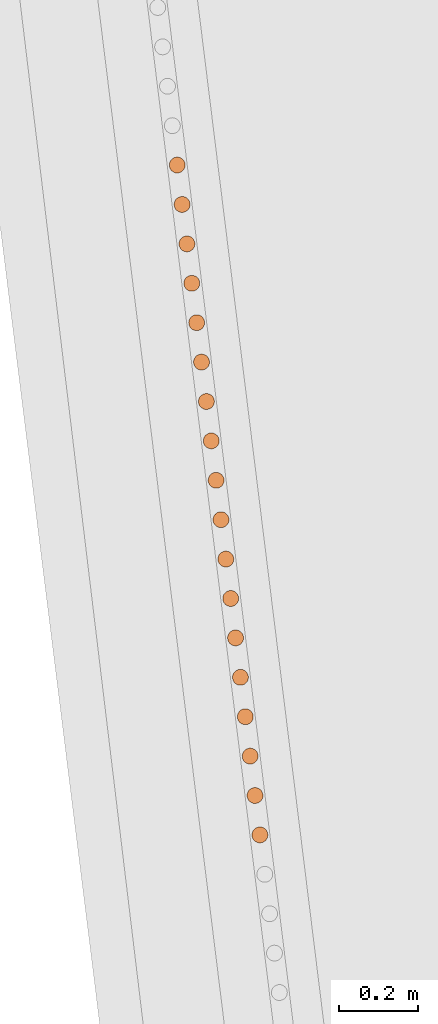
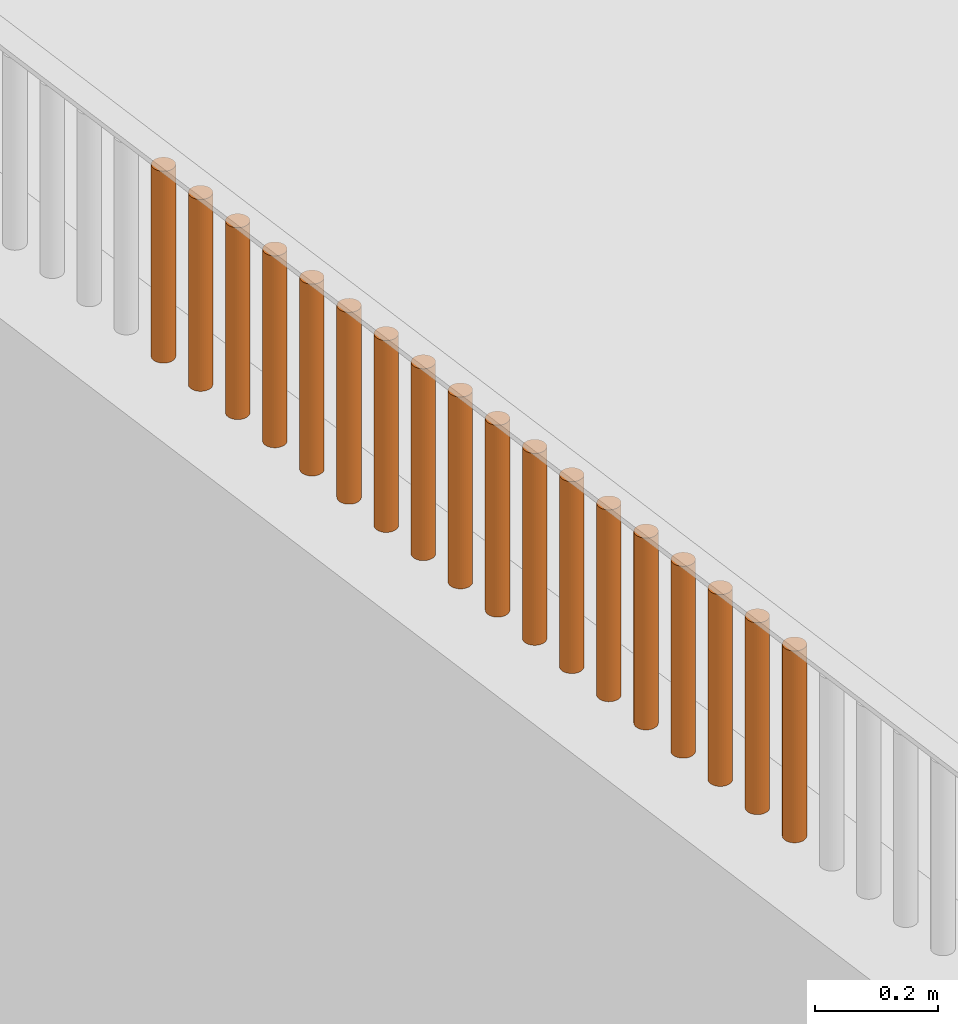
# One storey, part 123 of 1809: 18 proxies, 1 element without a shape of its own.
"""IFC2X3 building model written with IfcOpenShell, lengths in millimetres."""

from ifc_helpers import new_model, entity, si_unit, converted_unit, derived_unit, money_unit, direction, frame, origin_with_axes, place, context, subcontext, project, spatial, faceted_brep, source, transform, mapped, material, type_object, element, aggregate, save


model = new_model("IFC2X3")

# Units and contexts
model_context = context("Model", 3, precision=0.01, world=origin_with_axes(), true_north=direction((0.0, 1.0)))
body_context = subcontext(model_context, "Body", "Model", "MODEL_VIEW")
ifc_project = project(units=[si_unit("LENGTHUNIT", "METRE", prefix="MILLI"), si_unit("AREAUNIT", "SQUARE_METRE"), si_unit("VOLUMEUNIT", "CUBIC_METRE"), converted_unit("PLANEANGLEUNIT", "DEGREE", entity("IfcPlaneAngleMeasure", 0.0174532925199), si_unit("PLANEANGLEUNIT", "RADIAN"), dimensions=[0, 0, 0, 0, 0, 0, 0]), si_unit("SOLIDANGLEUNIT", "STERADIAN"), money_unit("EUR"), converted_unit("TIMEUNIT", "Year", entity("IfcTimeMeasure", 31556926.0), si_unit("TIMEUNIT", "SECOND"), dimensions=[0, 0, 1, 0, 0, 0, 0]), si_unit("MASSUNIT", "GRAM", prefix="KILO"), si_unit("THERMODYNAMICTEMPERATUREUNIT", "DEGREE_CELSIUS"), si_unit("LUMINOUSINTENSITYUNIT", "LUMEN"), si_unit("ENERGYUNIT", "JOULE", prefix="MEGA"), derived_unit("THERMALCONDUCTANCEUNIT", [(si_unit("POWERUNIT", "WATT"), 1), (si_unit("LENGTHUNIT", "METRE"), -1), (si_unit("THERMODYNAMICTEMPERATUREUNIT", "KELVIN"), -1)]), derived_unit("SPECIFICHEATCAPACITYUNIT", [(si_unit("ENERGYUNIT", "JOULE"), 1), (si_unit("MASSUNIT", "GRAM", prefix="KILO"), -1), (si_unit("THERMODYNAMICTEMPERATUREUNIT", "KELVIN"), -1)]), derived_unit("MASSDENSITYUNIT", [(si_unit("MASSUNIT", "GRAM", prefix="KILO"), 1), (si_unit("VOLUMEUNIT", "CUBIC_METRE"), -1)])], contexts=[model_context])

# Site, building, storey
site_placement = place(None, origin_with_axes())
site = spatial("IfcSite", under=ifc_project, at=site_placement, Name="Politse- ja Piirivalveameti ning Päästeameti ühishoone", CompositionType="ELEMENT")
building_placement = place(site_placement, origin_with_axes())
building = spatial("IfcBuilding", under=site, at=building_placement, Name="Politse- ja Piirivalveameti ning Päästeameti ühishoone", CompositionType="ELEMENT")
storey_placement = place(building_placement, origin_with_axes())
storey = spatial("IfcBuildingStorey", under=building, at=storey_placement, Name="Esimene korrus", CompositionType="ELEMENT", Elevation=0.0)

# Proxies
building_element_proxy_type_1 = type_object("IfcBuildingElementProxyType", Name="Railing Type", PredefinedType="NOTDEFINED")
proxy_1_placement = place(storey_placement, frame((-18956.5522504, -53688.4757966, 2100.0), z_axis=(0.0, 0.0, 1.0), x_axis=(1.0, 0.0, 0.0)))
proxy_1 = element("IfcBuildingElementProxy", 1, at=proxy_1_placement, inside=storey, type_object=building_element_proxy_type_1, Name="PIIRDEAED")
ifc_material = material(Name="ET-06_Teras - Konstruktsioon")
building_element_proxy_type_2 = type_object("IfcBuildingElementProxyType", Name="IfcBuildingElementProxy", PredefinedType="NOTDEFINED")
shared_shape_1 = source(origin_with_axes(), body_context, "Body", "Brep", [
    faceted_brep([(0.0, -20.0, 0.0), (3.47296355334, -19.6961550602, 0.0), (3.47296355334, -19.6961550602, 380.000012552), (0.0, -20.0, 380.000012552), (-3.47296355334, -19.6961550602, 0.0), (-6.84040286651, -18.7938524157, 0.0), (-10.0, -17.3205080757, 0.0), (-12.8557521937, -15.3208888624, 0.0), (-15.3208888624, -12.8557521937, 0.0), (-17.3205080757, -10.0, 0.0), (-18.7938524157, -6.84040286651, 0.0), (-19.6961550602, -3.47296355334, 0.0), (-20.0, 0.0, 0.0), (-19.6961550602, 3.47296355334, 0.0), (-18.7938524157, 6.84040286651, 0.0), (-17.3205080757, 10.0, 0.0), (-15.3208888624, 12.8557521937, 0.0), (-12.8557521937, 15.3208888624, 0.0), (-10.0, 17.3205080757, 0.0), (-6.84040286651, 18.7938524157, 0.0), (-3.47296355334, 19.6961550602, 0.0), (0.0, 20.0, 0.0), (3.47296355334, 19.6961550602, 0.0), (6.84040286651, 18.7938524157, 0.0), (10.0, 17.3205080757, 0.0), (12.8557521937, 15.3208888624, 0.0), (15.3208888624, 12.8557521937, 0.0), (17.3205080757, 10.0, 0.0), (18.7938524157, 6.84040286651, 0.0), (19.6961550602, 3.47296355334, 0.0), (20.0, 0.0, 0.0), (19.6961550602, -3.47296355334, 0.0), (18.7938524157, -6.84040286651, 0.0), (17.3205080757, -10.0, 0.0), (15.3208888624, -12.8557521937, 0.0), (12.8557521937, -15.3208888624, 0.0), (10.0, -17.3205080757, 0.0), (6.84040286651, -18.7938524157, 0.0), (6.84040286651, -18.7938524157, 380.000012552), (10.0, -17.3205080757, 380.000012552), (12.8557521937, -15.3208888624, 380.000012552), (15.3208888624, -12.8557521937, 380.000012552), (17.3205080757, -10.0, 380.000012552), (18.7938524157, -6.84040286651, 380.000012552), (19.6961550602, -3.47296355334, 380.000012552), (20.0, 0.0, 380.000012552), (19.6961550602, 3.47296355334, 380.000012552), (18.7938524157, 6.84040286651, 380.000012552), (17.3205080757, 10.0, 380.000012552), (15.3208888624, 12.8557521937, 380.000012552), (12.8557521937, 15.3208888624, 380.000012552), (10.0, 17.3205080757, 380.000012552), (6.84040286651, 18.7938524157, 380.000012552), (3.47296355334, 19.6961550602, 380.000012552), (0.0, 20.0, 380.000012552), (-3.47296355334, 19.6961550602, 380.000012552), (-6.84040286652, 18.7938524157, 380.000012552), (-10.0, 17.3205080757, 380.000012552), (-12.8557521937, 15.3208888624, 380.000012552), (-15.3208888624, 12.8557521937, 380.000012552), (-17.3205080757, 10.0, 380.000012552), (-18.7938524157, 6.84040286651, 380.000012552), (-19.6961550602, 3.47296355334, 380.000012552), (-20.0, 0.0, 380.000012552), (-19.6961550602, -3.47296355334, 380.000012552), (-18.7938524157, -6.84040286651, 380.000012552), (-17.3205080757, -10.0, 380.000012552), (-15.3208888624, -12.8557521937, 380.000012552), (-12.8557521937, -15.3208888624, 380.000012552), (-10.0, -17.3205080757, 380.000012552), (-6.84040286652, -18.7938524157, 380.000012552), (-3.47296355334, -19.6961550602, 380.000012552)], [[[0, 1, 2, 3]], [[0, 4, 5, 6, 7, 8, 9, 10, 11, 12, 13, 14, 15, 16, 17, 18, 19, 20, 21, 22, 23, 24, 25, 26, 27, 28, 29, 30, 31, 32, 33, 34, 35, 36, 37, 1]], [[1, 37, 38, 2]], [[3, 2, 38, 39, 40, 41, 42, 43, 44, 45, 46, 47, 48, 49, 50, 51, 52, 53, 54, 55, 56, 57, 58, 59, 60, 61, 62, 63, 64, 65, 66, 67, 68, 69, 70, 71]], [[4, 0, 3, 71]], [[5, 4, 71, 70]], [[6, 5, 70, 69]], [[7, 6, 69, 68]], [[8, 7, 68, 67]], [[9, 8, 67, 66]], [[10, 9, 66, 65]], [[11, 10, 65, 64]], [[12, 11, 64, 63]], [[13, 12, 63, 62]], [[14, 13, 62, 61]], [[15, 14, 61, 60]], [[16, 15, 60, 59]], [[17, 16, 59, 58]], [[18, 17, 58, 57]], [[19, 18, 57, 56]], [[20, 19, 56, 55]], [[21, 20, 55, 54]], [[22, 21, 54, 53]], [[23, 22, 53, 52]], [[24, 23, 52, 51]], [[25, 24, 51, 50]], [[26, 25, 50, 49]], [[27, 26, 49, 48]], [[28, 27, 48, 47]], [[29, 28, 47, 46]], [[30, 29, 46, 45]], [[31, 30, 45, 44]], [[32, 31, 44, 43]], [[33, 32, 43, 42]], [[34, 33, 42, 41]], [[35, 34, 41, 40]], [[36, 35, 40, 39]], [[37, 36, 39, 38]]]),
])
proxy_2_placement = place(proxy_1_placement, frame((-3277.42612014, 25718.1248157, -1.25517001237e-05), z_axis=(0.0, 0.0, 1.0), x_axis=(1.0, 0.0, 0.0)))
proxy_2 = element("IfcBuildingElementProxy", 2, at=proxy_2_placement, type_object=building_element_proxy_type_2, material=ifc_material, Name="BALUSTER - 001", context=body_context, shape_type="MappedRepresentation", body=[
    mapped(shared_shape_1, transform((0.0, 0.0, 0.0), x_axis=(0.992468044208, 0.122503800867, 0.0), y_axis=(-0.122503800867, 0.992468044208, 0.0), z_axis=(0.0, 0.0, 1.0))),
])
proxy_3_placement = place(proxy_1_placement, frame((-3289.67382505, 25817.3499472, -1.25517001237e-05), z_axis=(0.0, 0.0, 1.0), x_axis=(1.0, 0.0, 0.0)))
proxy_3 = element("IfcBuildingElementProxy", 3, at=proxy_3_placement, type_object=building_element_proxy_type_2, material=ifc_material, Name="BALUSTER - 001", context=body_context, shape_type="MappedRepresentation", body=[
    mapped(shared_shape_1, transform((0.0, 0.0, 0.0), x_axis=(0.992468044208, 0.122503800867, 0.0), y_axis=(-0.122503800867, 0.992468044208, 0.0), z_axis=(0.0, 0.0, 1.0))),
])
proxy_4_placement = place(proxy_1_placement, frame((-3314.16923488, 26015.80021, -1.25517001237e-05), z_axis=(0.0, 0.0, 1.0), x_axis=(1.0, 0.0, 0.0)))
proxy_4 = element("IfcBuildingElementProxy", 4, at=proxy_4_placement, type_object=building_element_proxy_type_2, material=ifc_material, Name="BALUSTER - 001", context=body_context, shape_type="MappedRepresentation", body=[
    mapped(shared_shape_1, transform((0.0, 0.0, 0.0), x_axis=(0.992468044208, 0.122503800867, 0.0), y_axis=(-0.122503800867, 0.992468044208, 0.0), z_axis=(0.0, 0.0, 1.0))),
])
proxy_5_placement = place(proxy_1_placement, frame((-3350.91234962, 26313.4756043, -1.25517001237e-05), z_axis=(0.0, 0.0, 1.0), x_axis=(1.0, 0.0, 0.0)))
proxy_5 = element("IfcBuildingElementProxy", 5, at=proxy_5_placement, type_object=building_element_proxy_type_2, material=ifc_material, Name="BALUSTER - 001", context=body_context, shape_type="MappedRepresentation", body=[
    mapped(shared_shape_1, transform((0.0, 0.0, 0.0), x_axis=(0.992468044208, 0.122503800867, 0.0), y_axis=(-0.122503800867, 0.992468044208, 0.0), z_axis=(0.0, 0.0, 1.0))),
])
proxy_6_placement = place(proxy_1_placement, frame((-3375.40775944, 26511.9258671, -1.25517001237e-05), z_axis=(0.0, 0.0, 1.0), x_axis=(1.0, 0.0, 0.0)))
proxy_6 = element("IfcBuildingElementProxy", 6, at=proxy_6_placement, type_object=building_element_proxy_type_2, material=ifc_material, Name="BALUSTER - 001", context=body_context, shape_type="MappedRepresentation", body=[
    mapped(shared_shape_1, transform((0.0, 0.0, 0.0), x_axis=(0.992468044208, 0.122503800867, 0.0), y_axis=(-0.122503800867, 0.992468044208, 0.0), z_axis=(0.0, 0.0, 1.0))),
])
proxy_7_placement = place(proxy_1_placement, frame((-3399.90316927, 26710.37613, -1.25517001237e-05), z_axis=(0.0, 0.0, 1.0), x_axis=(1.0, 0.0, 0.0)))
proxy_7 = element("IfcBuildingElementProxy", 7, at=proxy_7_placement, type_object=building_element_proxy_type_2, material=ifc_material, Name="BALUSTER - 001", context=body_context, shape_type="MappedRepresentation", body=[
    mapped(shared_shape_1, transform((0.0, 0.0, 0.0), x_axis=(0.992468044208, 0.122503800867, 0.0), y_axis=(-0.122503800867, 0.992468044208, 0.0), z_axis=(0.0, 0.0, 1.0))),
])
shared_shape_2 = source(origin_with_axes(), body_context, "Body", "Brep", [
    faceted_brep([(0.0, -20.0, 0.0), (3.47296355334, -19.6961550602, 0.0), (3.47296355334, -19.6961550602, 380.000012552), (0.0, -20.0, 380.000012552), (-3.47296355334, -19.6961550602, 0.0), (-6.84040286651, -18.7938524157, 0.0), (-10.0, -17.3205080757, 0.0), (-12.8557521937, -15.3208888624, 0.0), (-15.3208888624, -12.8557521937, 0.0), (-17.3205080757, -10.0, 0.0), (-18.7938524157, -6.84040286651, 0.0), (-19.6961550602, -3.47296355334, 0.0), (-20.0, 0.0, 0.0), (-19.6961550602, 3.47296355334, 0.0), (-18.7938524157, 6.84040286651, 0.0), (-17.3205080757, 10.0, 0.0), (-15.3208888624, 12.8557521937, 0.0), (-12.8557521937, 15.3208888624, 0.0), (-10.0, 17.3205080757, 0.0), (-6.84040286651, 18.7938524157, 0.0), (-3.47296355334, 19.6961550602, 0.0), (0.0, 20.0, 0.0), (3.47296355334, 19.6961550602, 0.0), (6.84040286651, 18.7938524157, 0.0), (10.0, 17.3205080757, 0.0), (12.8557521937, 15.3208888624, 0.0), (15.3208888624, 12.8557521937, 0.0), (17.3205080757, 10.0, 0.0), (18.7938524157, 6.84040286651, 0.0), (19.6961550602, 3.47296355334, 0.0), (20.0, 0.0, 0.0), (19.6961550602, -3.47296355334, 0.0), (18.7938524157, -6.84040286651, 0.0), (17.3205080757, -10.0, 0.0), (15.3208888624, -12.8557521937, 0.0), (12.8557521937, -15.3208888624, 0.0), (10.0, -17.3205080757, 0.0), (6.84040286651, -18.7938524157, 0.0), (6.84040286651, -18.7938524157, 380.000012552), (10.0, -17.3205080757, 380.000012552), (12.8557521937, -15.3208888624, 380.000012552), (15.3208888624, -12.8557521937, 380.000012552), (17.3205080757, -10.0, 380.000012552), (18.7938524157, -6.84040286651, 380.000012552), (19.6961550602, -3.47296355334, 380.000012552), (20.0, 0.0, 380.000012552), (19.6961550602, 3.47296355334, 380.000012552), (18.7938524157, 6.84040286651, 380.000012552), (17.3205080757, 10.0, 380.000012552), (15.3208888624, 12.8557521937, 380.000012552), (12.8557521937, 15.3208888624, 380.000012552), (10.0, 17.3205080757, 380.000012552), (6.84040286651, 18.7938524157, 380.000012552), (3.47296355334, 19.6961550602, 380.000012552), (0.0, 20.0, 380.000012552), (-3.47296355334, 19.6961550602, 380.000012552), (-6.84040286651, 18.7938524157, 380.000012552), (-10.0, 17.3205080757, 380.000012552), (-12.8557521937, 15.3208888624, 380.000012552), (-15.3208888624, 12.8557521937, 380.000012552), (-17.3205080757, 10.0, 380.000012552), (-18.7938524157, 6.84040286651, 380.000012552), (-19.6961550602, 3.47296355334, 380.000012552), (-20.0, 0.0, 380.000012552), (-19.6961550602, -3.47296355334, 380.000012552), (-18.7938524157, -6.84040286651, 380.000012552), (-17.3205080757, -10.0, 380.000012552), (-15.3208888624, -12.8557521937, 380.000012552), (-12.8557521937, -15.3208888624, 380.000012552), (-10.0, -17.3205080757, 380.000012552), (-6.84040286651, -18.7938524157, 380.000012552), (-3.47296355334, -19.6961550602, 380.000012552)], [[[0, 1, 2, 3]], [[0, 4, 5, 6, 7, 8, 9, 10, 11, 12, 13, 14, 15, 16, 17, 18, 19, 20, 21, 22, 23, 24, 25, 26, 27, 28, 29, 30, 31, 32, 33, 34, 35, 36, 37, 1]], [[1, 37, 38, 2]], [[3, 2, 38, 39, 40, 41, 42, 43, 44, 45, 46, 47, 48, 49, 50, 51, 52, 53, 54, 55, 56, 57, 58, 59, 60, 61, 62, 63, 64, 65, 66, 67, 68, 69, 70, 71]], [[4, 0, 3, 71]], [[5, 4, 71, 70]], [[6, 5, 70, 69]], [[7, 6, 69, 68]], [[8, 7, 68, 67]], [[9, 8, 67, 66]], [[10, 9, 66, 65]], [[11, 10, 65, 64]], [[12, 11, 64, 63]], [[13, 12, 63, 62]], [[14, 13, 62, 61]], [[15, 14, 61, 60]], [[16, 15, 60, 59]], [[17, 16, 59, 58]], [[18, 17, 58, 57]], [[19, 18, 57, 56]], [[20, 19, 56, 55]], [[21, 20, 55, 54]], [[22, 21, 54, 53]], [[23, 22, 53, 52]], [[24, 23, 52, 51]], [[25, 24, 51, 50]], [[26, 25, 50, 49]], [[27, 26, 49, 48]], [[28, 27, 48, 47]], [[29, 28, 47, 46]], [[30, 29, 46, 45]], [[31, 30, 45, 44]], [[32, 31, 44, 43]], [[33, 32, 43, 42]], [[34, 33, 42, 41]], [[35, 34, 41, 40]], [[36, 35, 40, 39]], [[37, 36, 39, 38]]]),
])
proxy_8_placement = place(proxy_1_placement, frame((-3228.43530049, 25321.22429, -1.25517001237e-05), z_axis=(0.0, 0.0, 1.0), x_axis=(1.0, 0.0, 0.0)))
proxy_8 = element("IfcBuildingElementProxy", 8, at=proxy_8_placement, type_object=building_element_proxy_type_2, material=ifc_material, Name="BALUSTER - 001", context=body_context, shape_type="MappedRepresentation", body=[
    mapped(shared_shape_2, transform((0.0, 0.0, 0.0), x_axis=(0.992468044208, 0.122503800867, 0.0), y_axis=(-0.122503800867, 0.992468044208, 0.0), z_axis=(0.0, 0.0, 1.0))),
])
proxy_9_placement = place(proxy_1_placement, frame((-3240.6830054, 25420.4494215, -1.25517001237e-05), z_axis=(0.0, 0.0, 1.0), x_axis=(1.0, 0.0, 0.0)))
proxy_9 = element("IfcBuildingElementProxy", 9, at=proxy_9_placement, type_object=building_element_proxy_type_2, material=ifc_material, Name="BALUSTER - 001", context=body_context, shape_type="MappedRepresentation", body=[
    mapped(shared_shape_2, transform((0.0, 0.0, 0.0), x_axis=(0.992468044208, 0.122503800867, 0.0), y_axis=(-0.122503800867, 0.992468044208, 0.0), z_axis=(0.0, 0.0, 1.0))),
])
proxy_10_placement = place(proxy_1_placement, frame((-3265.17841523, 25618.8996843, -1.25517001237e-05), z_axis=(0.0, 0.0, 1.0), x_axis=(1.0, 0.0, 0.0)))
proxy_10 = element("IfcBuildingElementProxy", 10, at=proxy_10_placement, type_object=building_element_proxy_type_2, material=ifc_material, Name="BALUSTER - 001", context=body_context, shape_type="MappedRepresentation", body=[
    mapped(shared_shape_2, transform((0.0, 0.0, 0.0), x_axis=(0.992468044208, 0.122503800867, 0.0), y_axis=(-0.122503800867, 0.992468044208, 0.0), z_axis=(0.0, 0.0, 1.0))),
])
shared_shape_3 = source(origin_with_axes(), body_context, "Body", "Brep", [
    faceted_brep([(0.0, -20.0, 0.0), (3.47296355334, -19.6961550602, 0.0), (3.47296355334, -19.6961550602, 380.000012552), (0.0, -20.0, 380.000012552), (-3.47296355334, -19.6961550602, 0.0), (-6.84040286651, -18.7938524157, 0.0), (-10.0, -17.3205080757, 0.0), (-12.8557521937, -15.3208888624, 0.0), (-15.3208888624, -12.8557521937, 0.0), (-17.3205080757, -10.0, 0.0), (-18.7938524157, -6.84040286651, 0.0), (-19.6961550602, -3.47296355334, 0.0), (-20.0, 0.0, 0.0), (-19.6961550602, 3.47296355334, 0.0), (-18.7938524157, 6.84040286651, 0.0), (-17.3205080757, 10.0, 0.0), (-15.3208888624, 12.8557521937, 0.0), (-12.8557521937, 15.3208888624, 0.0), (-10.0, 17.3205080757, 0.0), (-6.84040286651, 18.7938524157, 0.0), (-3.47296355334, 19.6961550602, 0.0), (0.0, 20.0, 0.0), (3.47296355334, 19.6961550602, 0.0), (6.84040286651, 18.7938524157, 0.0), (10.0, 17.3205080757, 0.0), (12.8557521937, 15.3208888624, 0.0), (15.3208888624, 12.8557521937, 0.0), (17.3205080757, 10.0, 0.0), (18.7938524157, 6.84040286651, 0.0), (19.6961550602, 3.47296355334, 0.0), (20.0, 0.0, 0.0), (19.6961550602, -3.47296355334, 0.0), (18.7938524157, -6.84040286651, 0.0), (17.3205080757, -10.0, 0.0), (15.3208888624, -12.8557521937, 0.0), (12.8557521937, -15.3208888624, 0.0), (10.0, -17.3205080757, 0.0), (6.84040286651, -18.7938524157, 0.0), (6.84040286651, -18.7938524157, 380.000012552), (10.0, -17.3205080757, 380.000012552), (12.8557521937, -15.3208888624, 380.000012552), (15.3208888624, -12.8557521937, 380.000012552), (17.3205080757, -10.0, 380.000012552), (18.7938524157, -6.84040286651, 380.000012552), (19.6961550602, -3.47296355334, 380.000012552), (20.0, 0.0, 380.000012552), (19.6961550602, 3.47296355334, 380.000012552), (18.7938524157, 6.84040286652, 380.000012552), (17.3205080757, 10.0, 380.000012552), (15.3208888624, 12.8557521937, 380.000012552), (12.8557521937, 15.3208888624, 380.000012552), (10.0, 17.3205080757, 380.000012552), (6.84040286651, 18.7938524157, 380.000012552), (3.47296355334, 19.6961550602, 380.000012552), (0.0, 20.0, 380.000012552), (-3.47296355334, 19.6961550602, 380.000012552), (-6.84040286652, 18.7938524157, 380.000012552), (-10.0, 17.3205080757, 380.000012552), (-12.8557521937, 15.3208888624, 380.000012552), (-15.3208888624, 12.8557521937, 380.000012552), (-17.3205080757, 10.0, 380.000012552), (-18.7938524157, 6.84040286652, 380.000012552), (-19.6961550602, 3.47296355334, 380.000012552), (-20.0, 0.0, 380.000012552), (-19.6961550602, -3.47296355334, 380.000012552), (-18.7938524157, -6.84040286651, 380.000012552), (-17.3205080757, -10.0, 380.000012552), (-15.3208888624, -12.8557521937, 380.000012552), (-12.8557521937, -15.3208888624, 380.000012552), (-10.0, -17.3205080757, 380.000012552), (-6.84040286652, -18.7938524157, 380.000012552), (-3.47296355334, -19.6961550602, 380.000012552)], [[[0, 1, 2, 3]], [[0, 4, 5, 6, 7, 8, 9, 10, 11, 12, 13, 14, 15, 16, 17, 18, 19, 20, 21, 22, 23, 24, 25, 26, 27, 28, 29, 30, 31, 32, 33, 34, 35, 36, 37, 1]], [[1, 37, 38, 2]], [[3, 2, 38, 39, 40, 41, 42, 43, 44, 45, 46, 47, 48, 49, 50, 51, 52, 53, 54, 55, 56, 57, 58, 59, 60, 61, 62, 63, 64, 65, 66, 67, 68, 69, 70, 71]], [[4, 0, 3, 71]], [[5, 4, 71, 70]], [[6, 5, 70, 69]], [[7, 6, 69, 68]], [[8, 7, 68, 67]], [[9, 8, 67, 66]], [[10, 9, 66, 65]], [[11, 10, 65, 64]], [[12, 11, 64, 63]], [[13, 12, 63, 62]], [[14, 13, 62, 61]], [[15, 14, 61, 60]], [[16, 15, 60, 59]], [[17, 16, 59, 58]], [[18, 17, 58, 57]], [[19, 18, 57, 56]], [[20, 19, 56, 55]], [[21, 20, 55, 54]], [[22, 21, 54, 53]], [[23, 22, 53, 52]], [[24, 23, 52, 51]], [[25, 24, 51, 50]], [[26, 25, 50, 49]], [[27, 26, 49, 48]], [[28, 27, 48, 47]], [[29, 28, 47, 46]], [[30, 29, 46, 45]], [[31, 30, 45, 44]], [[32, 31, 44, 43]], [[33, 32, 43, 42]], [[34, 33, 42, 41]], [[35, 34, 41, 40]], [[36, 35, 40, 39]], [[37, 36, 39, 38]]]),
])
proxy_11_placement = place(proxy_1_placement, frame((-3424.3985791, 26908.8263928, -1.25517001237e-05), z_axis=(0.0, 0.0, 1.0), x_axis=(1.0, 0.0, 0.0)))
proxy_11 = element("IfcBuildingElementProxy", 11, at=proxy_11_placement, type_object=building_element_proxy_type_2, material=ifc_material, Name="BALUSTER - 001", context=body_context, shape_type="MappedRepresentation", body=[
    mapped(shared_shape_3, transform((0.0, 0.0, 0.0), x_axis=(0.992468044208, 0.122503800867, 0.0), y_axis=(-0.122503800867, 0.992468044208, 0.0), z_axis=(0.0, 0.0, 1.0))),
])
shared_shape_4 = source(origin_with_axes(), body_context, "Body", "Brep", [
    faceted_brep([(0.0, -20.0, 0.0), (3.47296355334, -19.6961550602, 0.0), (3.47296355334, -19.6961550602, 380.000012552), (0.0, -20.0, 380.000012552), (-3.47296355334, -19.6961550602, 0.0), (-6.84040286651, -18.7938524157, 0.0), (-10.0, -17.3205080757, 0.0), (-12.8557521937, -15.3208888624, 0.0), (-15.3208888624, -12.8557521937, 0.0), (-17.3205080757, -10.0, 0.0), (-18.7938524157, -6.84040286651, 0.0), (-19.6961550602, -3.47296355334, 0.0), (-20.0, 0.0, 0.0), (-19.6961550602, 3.47296355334, 0.0), (-18.7938524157, 6.84040286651, 0.0), (-17.3205080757, 10.0, 0.0), (-15.3208888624, 12.8557521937, 0.0), (-12.8557521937, 15.3208888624, 0.0), (-10.0, 17.3205080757, 0.0), (-6.84040286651, 18.7938524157, 0.0), (-3.47296355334, 19.6961550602, 0.0), (0.0, 20.0, 0.0), (3.47296355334, 19.6961550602, 0.0), (6.84040286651, 18.7938524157, 0.0), (10.0, 17.3205080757, 0.0), (12.8557521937, 15.3208888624, 0.0), (15.3208888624, 12.8557521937, 0.0), (17.3205080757, 10.0, 0.0), (18.7938524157, 6.84040286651, 0.0), (19.6961550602, 3.47296355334, 0.0), (20.0, 0.0, 0.0), (19.6961550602, -3.47296355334, 0.0), (18.7938524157, -6.84040286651, 0.0), (17.3205080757, -10.0, 0.0), (15.3208888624, -12.8557521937, 0.0), (12.8557521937, -15.3208888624, 0.0), (10.0, -17.3205080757, 0.0), (6.84040286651, -18.7938524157, 0.0), (6.84040286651, -18.7938524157, 380.000012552), (10.0, -17.3205080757, 380.000012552), (12.8557521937, -15.3208888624, 380.000012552), (15.3208888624, -12.8557521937, 380.000012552), (17.3205080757, -10.0, 380.000012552), (18.7938524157, -6.84040286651, 380.000012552), (19.6961550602, -3.47296355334, 380.000012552), (20.0, 0.0, 380.000012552), (19.6961550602, 3.47296355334, 380.000012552), (18.7938524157, 6.84040286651, 380.000012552), (17.3205080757, 10.0, 380.000012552), (15.3208888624, 12.8557521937, 380.000012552), (12.8557521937, 15.3208888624, 380.000012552), (10.0, 17.3205080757, 380.000012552), (6.84040286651, 18.7938524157, 380.000012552), (3.47296355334, 19.6961550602, 380.000012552), (0.0, 20.0, 380.000012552), (-3.47296355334, 19.6961550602, 380.000012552), (-6.84040286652, 18.7938524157, 380.000012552), (-10.0, 17.3205080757, 380.000012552), (-12.8557521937, 15.3208888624, 380.000012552), (-15.3208888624, 12.8557521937, 380.000012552), (-17.3205080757, 10.0, 380.000012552), (-18.7938524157, 6.84040286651, 380.000012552), (-19.6961550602, 3.47296355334, 380.000012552), (-20.0, 0.0, 380.000012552), (-19.6961550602, -3.47296355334, 380.000012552), (-18.7938524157, -6.84040286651, 380.000012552), (-17.3205080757, -10.0, 380.000012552), (-15.3208888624, -12.8557521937, 380.000012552), (-12.8557521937, -15.3208888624, 380.000012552), (-10.0, -17.3205080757, 380.000012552), (-6.84040286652, -18.7938524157, 380.000012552), (-3.47296355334, -19.6961550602, 380.000012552)], [[[0, 1, 2, 3]], [[0, 4, 5, 6, 7, 8, 9, 10, 11, 12, 13, 14, 15, 16, 17, 18, 19, 20, 21, 22, 23, 24, 25, 26, 27, 28, 29, 30, 31, 32, 33, 34, 35, 36, 37, 1]], [[1, 37, 38, 2]], [[3, 2, 38, 39, 40, 41, 42, 43, 44, 45, 46, 47, 48, 49, 50, 51, 52, 53, 54, 55, 56, 57, 58, 59, 60, 61, 62, 63, 64, 65, 66, 67, 68, 69, 70, 71]], [[4, 0, 3, 71]], [[5, 4, 71, 70]], [[6, 5, 70, 69]], [[7, 6, 69, 68]], [[8, 7, 68, 67]], [[9, 8, 67, 66]], [[10, 9, 66, 65]], [[11, 10, 65, 64]], [[12, 11, 64, 63]], [[13, 12, 63, 62]], [[14, 13, 62, 61]], [[15, 14, 61, 60]], [[16, 15, 60, 59]], [[17, 16, 59, 58]], [[18, 17, 58, 57]], [[19, 18, 57, 56]], [[20, 19, 56, 55]], [[21, 20, 55, 54]], [[22, 21, 54, 53]], [[23, 22, 53, 52]], [[24, 23, 52, 51]], [[25, 24, 51, 50]], [[26, 25, 50, 49]], [[27, 26, 49, 48]], [[28, 27, 48, 47]], [[29, 28, 47, 46]], [[30, 29, 46, 45]], [[31, 30, 45, 44]], [[32, 31, 44, 43]], [[33, 32, 43, 42]], [[34, 33, 42, 41]], [[35, 34, 41, 40]], [[36, 35, 40, 39]], [[37, 36, 39, 38]]]),
])
proxy_12_placement = place(proxy_1_placement, frame((-3252.93071031, 25519.6745529, -1.25517001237e-05), z_axis=(0.0, 0.0, 1.0), x_axis=(1.0, 0.0, 0.0)))
proxy_12 = element("IfcBuildingElementProxy", 12, at=proxy_12_placement, type_object=building_element_proxy_type_2, material=ifc_material, Name="BALUSTER - 001", context=body_context, shape_type="MappedRepresentation", body=[
    mapped(shared_shape_4, transform((0.0, 0.0, 0.0), x_axis=(0.992468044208, 0.122503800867, 0.0), y_axis=(-0.122503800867, 0.992468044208, 0.0), z_axis=(0.0, 0.0, 1.0))),
])
proxy_13_placement = place(proxy_1_placement, frame((-3326.41693979, 26115.0253414, -1.25517001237e-05), z_axis=(0.0, 0.0, 1.0), x_axis=(1.0, 0.0, 0.0)))
proxy_13 = element("IfcBuildingElementProxy", 13, at=proxy_13_placement, type_object=building_element_proxy_type_2, material=ifc_material, Name="BALUSTER - 001", context=body_context, shape_type="MappedRepresentation", body=[
    mapped(shared_shape_4, transform((0.0, 0.0, 0.0), x_axis=(0.992468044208, 0.122503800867, 0.0), y_axis=(-0.122503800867, 0.992468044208, 0.0), z_axis=(0.0, 0.0, 1.0))),
])
proxy_14_placement = place(proxy_1_placement, frame((-3412.15087418, 26809.6012614, -1.25517001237e-05), z_axis=(0.0, 0.0, 1.0), x_axis=(1.0, 0.0, 0.0)))
proxy_14 = element("IfcBuildingElementProxy", 14, at=proxy_14_placement, type_object=building_element_proxy_type_2, material=ifc_material, Name="BALUSTER - 001", context=body_context, shape_type="MappedRepresentation", body=[
    mapped(shared_shape_4, transform((0.0, 0.0, 0.0), x_axis=(0.992468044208, 0.122503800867, 0.0), y_axis=(-0.122503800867, 0.992468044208, 0.0), z_axis=(0.0, 0.0, 1.0))),
])
proxy_15_placement = place(proxy_1_placement, frame((-3436.64628401, 27008.0515243, -1.25517001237e-05), z_axis=(0.0, 0.0, 1.0), x_axis=(1.0, 0.0, 0.0)))
proxy_15 = element("IfcBuildingElementProxy", 15, at=proxy_15_placement, type_object=building_element_proxy_type_2, material=ifc_material, Name="BALUSTER - 001", context=body_context, shape_type="MappedRepresentation", body=[
    mapped(shared_shape_4, transform((0.0, 0.0, 0.0), x_axis=(0.992468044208, 0.122503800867, 0.0), y_axis=(-0.122503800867, 0.992468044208, 0.0), z_axis=(0.0, 0.0, 1.0))),
])
shared_shape_5 = source(origin_with_axes(), body_context, "Body", "Brep", [
    faceted_brep([(0.0, -20.0, 0.0), (3.47296355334, -19.6961550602, 0.0), (3.47296355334, -19.6961550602, 380.000012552), (0.0, -20.0, 380.000012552), (-3.47296355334, -19.6961550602, 0.0), (-6.84040286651, -18.7938524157, 0.0), (-10.0, -17.3205080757, 0.0), (-12.8557521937, -15.3208888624, 0.0), (-15.3208888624, -12.8557521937, 0.0), (-17.3205080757, -10.0, 0.0), (-18.7938524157, -6.84040286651, 0.0), (-19.6961550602, -3.47296355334, 0.0), (-20.0, 0.0, 0.0), (-19.6961550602, 3.47296355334, 0.0), (-18.7938524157, 6.84040286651, 0.0), (-17.3205080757, 10.0, 0.0), (-15.3208888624, 12.8557521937, 0.0), (-12.8557521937, 15.3208888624, 0.0), (-10.0, 17.3205080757, 0.0), (-6.84040286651, 18.7938524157, 0.0), (-3.47296355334, 19.6961550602, 0.0), (0.0, 20.0, 0.0), (3.47296355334, 19.6961550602, 0.0), (6.84040286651, 18.7938524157, 0.0), (10.0, 17.3205080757, 0.0), (12.8557521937, 15.3208888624, 0.0), (15.3208888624, 12.8557521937, 0.0), (17.3205080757, 10.0, 0.0), (18.7938524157, 6.84040286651, 0.0), (19.6961550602, 3.47296355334, 0.0), (20.0, 0.0, 0.0), (19.6961550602, -3.47296355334, 0.0), (18.7938524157, -6.84040286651, 0.0), (17.3205080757, -10.0, 0.0), (15.3208888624, -12.8557521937, 0.0), (12.8557521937, -15.3208888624, 0.0), (10.0, -17.3205080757, 0.0), (6.84040286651, -18.7938524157, 0.0), (6.84040286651, -18.7938524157, 380.000012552), (10.0, -17.3205080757, 380.000012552), (12.8557521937, -15.3208888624, 380.000012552), (15.3208888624, -12.8557521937, 380.000012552), (17.3205080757, -10.0, 380.000012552), (18.7938524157, -6.84040286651, 380.000012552), (19.6961550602, -3.47296355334, 380.000012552), (20.0, 0.0, 380.000012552), (19.6961550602, 3.47296355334, 380.000012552), (18.7938524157, 6.84040286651, 380.000012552), (17.3205080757, 10.0, 380.000012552), (15.3208888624, 12.8557521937, 380.000012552), (12.8557521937, 15.3208888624, 380.000012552), (10.0, 17.3205080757, 380.000012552), (6.84040286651, 18.7938524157, 380.000012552), (3.47296355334, 19.6961550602, 380.000012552), (0.0, 20.0, 380.000012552), (-3.47296355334, 19.6961550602, 380.000012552), (-6.84040286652, 18.7938524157, 380.000012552), (-10.0, 17.3205080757, 380.000012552), (-12.8557521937, 15.3208888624, 380.000012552), (-15.3208888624, 12.8557521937, 380.000012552), (-17.3205080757, 10.0, 380.000012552), (-18.7938524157, 6.84040286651, 380.000012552), (-19.6961550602, 3.47296355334, 380.000012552), (-20.0, 0.0, 380.000012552), (-19.6961550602, -3.47296355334, 380.000012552), (-18.7938524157, -6.84040286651, 380.000012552), (-17.3205080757, -10.0, 380.000012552), (-15.3208888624, -12.8557521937, 380.000012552), (-12.8557521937, -15.3208888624, 380.000012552), (-10.0, -17.3205080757, 380.000012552), (-6.84040286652, -18.7938524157, 380.000012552), (-3.47296355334, -19.6961550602, 380.000012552)], [[[0, 1, 2, 3]], [[0, 4, 5, 6, 7, 8, 9, 10, 11, 12, 13, 14, 15, 16, 17, 18, 19, 20, 21, 22, 23, 24, 25, 26, 27, 28, 29, 30, 31, 32, 33, 34, 35, 36, 37, 1]], [[1, 37, 38, 2]], [[3, 2, 38, 39, 40, 41, 42, 43, 44, 45, 46, 47, 48, 49, 50, 51, 52, 53, 54, 55, 56, 57, 58, 59, 60, 61, 62, 63, 64, 65, 66, 67, 68, 69, 70, 71]], [[4, 0, 3, 71]], [[5, 4, 71, 70]], [[6, 5, 70, 69]], [[7, 6, 69, 68]], [[8, 7, 68, 67]], [[9, 8, 67, 66]], [[10, 9, 66, 65]], [[11, 10, 65, 64]], [[12, 11, 64, 63]], [[13, 12, 63, 62]], [[14, 13, 62, 61]], [[15, 14, 61, 60]], [[16, 15, 60, 59]], [[17, 16, 59, 58]], [[18, 17, 58, 57]], [[19, 18, 57, 56]], [[20, 19, 56, 55]], [[21, 20, 55, 54]], [[22, 21, 54, 53]], [[23, 22, 53, 52]], [[24, 23, 52, 51]], [[25, 24, 51, 50]], [[26, 25, 50, 49]], [[27, 26, 49, 48]], [[28, 27, 48, 47]], [[29, 28, 47, 46]], [[30, 29, 46, 45]], [[31, 30, 45, 44]], [[32, 31, 44, 43]], [[33, 32, 43, 42]], [[34, 33, 42, 41]], [[35, 34, 41, 40]], [[36, 35, 40, 39]], [[37, 36, 39, 38]]]),
])
proxy_16_placement = place(proxy_1_placement, frame((-3301.92152997, 25916.5750786, -1.25517001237e-05), z_axis=(0.0, 0.0, 1.0), x_axis=(1.0, 0.0, 0.0)))
proxy_16 = element("IfcBuildingElementProxy", 16, at=proxy_16_placement, type_object=building_element_proxy_type_2, material=ifc_material, Name="BALUSTER - 001", context=body_context, shape_type="MappedRepresentation", body=[
    mapped(shared_shape_5, transform((0.0, 0.0, 0.0), x_axis=(0.992468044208, 0.122503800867, 0.0), y_axis=(-0.122503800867, 0.992468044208, 0.0), z_axis=(0.0, 0.0, 1.0))),
])
proxy_17_placement = place(proxy_1_placement, frame((-3338.6646447, 26214.2504729, -1.25517001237e-05), z_axis=(0.0, 0.0, 1.0), x_axis=(1.0, 0.0, 0.0)))
proxy_17 = element("IfcBuildingElementProxy", 17, at=proxy_17_placement, type_object=building_element_proxy_type_2, material=ifc_material, Name="BALUSTER - 001", context=body_context, shape_type="MappedRepresentation", body=[
    mapped(shared_shape_5, transform((0.0, 0.0, 0.0), x_axis=(0.992468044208, 0.122503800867, 0.0), y_axis=(-0.122503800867, 0.992468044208, 0.0), z_axis=(0.0, 0.0, 1.0))),
])
proxy_18_placement = place(proxy_1_placement, frame((-3363.16005453, 26412.7007357, -1.25517001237e-05), z_axis=(0.0, 0.0, 1.0), x_axis=(1.0, 0.0, 0.0)))
proxy_18 = element("IfcBuildingElementProxy", 18, at=proxy_18_placement, type_object=building_element_proxy_type_2, material=ifc_material, Name="BALUSTER - 001", context=body_context, shape_type="MappedRepresentation", body=[
    mapped(shared_shape_5, transform((0.0, 0.0, 0.0), x_axis=(0.992468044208, 0.122503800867, 0.0), y_axis=(-0.122503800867, 0.992468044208, 0.0), z_axis=(0.0, 0.0, 1.0))),
])
proxy_19_placement = place(proxy_1_placement, frame((-3387.65546436, 26611.1509986, -1.25517001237e-05), z_axis=(0.0, 0.0, 1.0), x_axis=(1.0, 0.0, 0.0)))
proxy_19 = element("IfcBuildingElementProxy", 19, at=proxy_19_placement, type_object=building_element_proxy_type_2, material=ifc_material, Name="BALUSTER - 001", context=body_context, shape_type="MappedRepresentation", body=[
    mapped(shared_shape_5, transform((0.0, 0.0, 0.0), x_axis=(0.992468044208, 0.122503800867, 0.0), y_axis=(-0.122503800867, 0.992468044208, 0.0), z_axis=(0.0, 0.0, 1.0))),
])
aggregate(proxy_1, [proxy_8, proxy_9, proxy_12, proxy_10, proxy_2, proxy_3, proxy_16, proxy_4, proxy_13, proxy_17, proxy_5, proxy_18, proxy_6, proxy_19, proxy_7, proxy_14, proxy_11, proxy_15])

save(model, "model.ifc")
